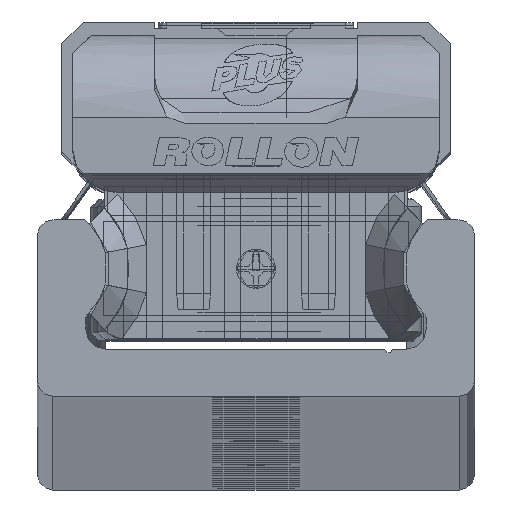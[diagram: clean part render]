
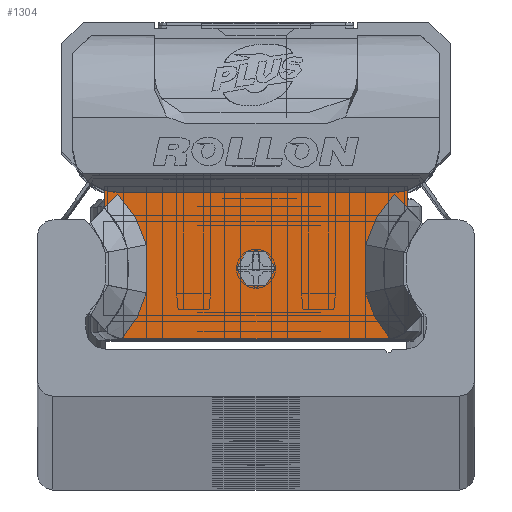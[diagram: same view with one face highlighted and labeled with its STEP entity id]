
A CAD part, top view. The second image highlights one B-rep face of the part: STEP entity #1304.
In plain terms, the highlighted planar face has unit normal (0, 0, 1) as drawn and (0, 0, -1) by its records, which use the part's own axes.
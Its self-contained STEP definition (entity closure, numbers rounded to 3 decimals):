
#1304 = ADVANCED_FACE( '', ( #3102, #3103 ), #3104, .F. );
#3102 = FACE_BOUND( '', #5650, .T. );
#3103 = FACE_OUTER_BOUND( '', #5651, .T. );
#3104 = PLANE( '', #5652 );
#5650 = EDGE_LOOP( '', ( #9336 ) );
#5651 = EDGE_LOOP( '', ( #9337, #9338, #9339, #9340, #9341, #9342, #9343, #9344, #9345, #9346, #9347, #9348, #9349, #9350 ) );
#5652 = AXIS2_PLACEMENT_3D( '', #9351, #9352, #9353 );
#9336 = ORIENTED_EDGE( '', *, *, #14584, .T. );
#9337 = ORIENTED_EDGE( '', *, *, #14585, .F. );
#9338 = ORIENTED_EDGE( '', *, *, #14586, .T. );
#9339 = ORIENTED_EDGE( '', *, *, #14587, .T. );
#9340 = ORIENTED_EDGE( '', *, *, #14588, .T. );
#9341 = ORIENTED_EDGE( '', *, *, #14589, .T. );
#9342 = ORIENTED_EDGE( '', *, *, #14590, .T. );
#9343 = ORIENTED_EDGE( '', *, *, #13703, .T. );
#9344 = ORIENTED_EDGE( '', *, *, #14591, .T. );
#9345 = ORIENTED_EDGE( '', *, *, #14592, .T. );
#9346 = ORIENTED_EDGE( '', *, *, #14593, .T. );
#9347 = ORIENTED_EDGE( '', *, *, #14433, .T. );
#9348 = ORIENTED_EDGE( '', *, *, #14594, .T. );
#9349 = ORIENTED_EDGE( '', *, *, #14595, .T. );
#9350 = ORIENTED_EDGE( '', *, *, #14596, .T. );
#9351 = CARTESIAN_POINT( '', ( 9.7, 4.89, -10.6 ) );
#9352 = DIRECTION( '', ( 0., 0., 1. ) );
#9353 = DIRECTION( '', ( 1., 0., 0. ) );
#13703 = EDGE_CURVE( '', #16223, #16224, #16225, .T. );
#14433 = EDGE_CURVE( '', #16273, #17459, #17461, .T. );
#14584 = EDGE_CURVE( '', #17684, #17684, #17685, .T. );
#14585 = EDGE_CURVE( '', #17686, #15868, #17687, .T. );
#14586 = EDGE_CURVE( '', #17686, #17688, #17689, .T. );
#14587 = EDGE_CURVE( '', #17688, #17690, #17691, .T. );
#14588 = EDGE_CURVE( '', #17690, #17692, #17693, .T. );
#14589 = EDGE_CURVE( '', #17692, #17694, #17695, .T. );
#14590 = EDGE_CURVE( '', #17694, #16223, #17696, .T. );
#14591 = EDGE_CURVE( '', #16224, #17697, #17698, .T. );
#14592 = EDGE_CURVE( '', #17697, #16687, #17699, .T. );
#14593 = EDGE_CURVE( '', #16687, #16273, #17700, .T. );
#14594 = EDGE_CURVE( '', #17459, #17701, #17702, .T. );
#14595 = EDGE_CURVE( '', #17701, #17703, #17704, .T. );
#14596 = EDGE_CURVE( '', #17703, #15868, #17705, .T. );
#15868 = VERTEX_POINT( '', #19374 );
#16223 = VERTEX_POINT( '', #19866 );
#16224 = VERTEX_POINT( '', #19867 );
#16225 = B_SPLINE_CURVE_WITH_KNOTS( '', 2, ( #19868, #19869, #19870, #19871, #19872 ), .UNSPECIFIED., .F., .F., ( 3, 2, 3 ), ( 0., 0.5, 1. ), .UNSPECIFIED. );
#16273 = VERTEX_POINT( '', #19932 );
#16687 = VERTEX_POINT( '', #20573 );
#17459 = VERTEX_POINT( '', #21729 );
#17461 = B_SPLINE_CURVE_WITH_KNOTS( '', 2, ( #21732, #21733, #21734 ), .UNSPECIFIED., .F., .F., ( 3, 3 ), ( 0.1, 1. ), .UNSPECIFIED. );
#17684 = VERTEX_POINT( '', #22009 );
#17685 = CIRCLE( '', #22010, 1.25 );
#17686 = VERTEX_POINT( '', #22011 );
#17687 = LINE( '', #22012, #22013 );
#17688 = VERTEX_POINT( '', #22014 );
#17689 = CIRCLE( '', #22015, 2.8 );
#17690 = VERTEX_POINT( '', #22016 );
#17691 = LINE( '', #22017, #22018 );
#17692 = VERTEX_POINT( '', #22019 );
#17693 = CIRCLE( '', #22020, 2.8 );
#17694 = VERTEX_POINT( '', #22021 );
#17695 = LINE( '', #22022, #22023 );
#17696 = LINE( '', #22024, #22025 );
#17697 = VERTEX_POINT( '', #22026 );
#17698 = B_SPLINE_CURVE_WITH_KNOTS( '', 2, ( #22027, #22028, #22029 ), .UNSPECIFIED., .F., .F., ( 3, 3 ), ( 0., 1. ), .UNSPECIFIED. );
#17699 = B_SPLINE_CURVE_WITH_KNOTS( '', 2, ( #22030, #22031, #22032 ), .UNSPECIFIED., .F., .F., ( 3, 3 ), ( 0., 1. ), .UNSPECIFIED. );
#17700 = LINE( '', #22033, #22034 );
#17701 = VERTEX_POINT( '', #22035 );
#17702 = B_SPLINE_CURVE_WITH_KNOTS( '', 2, ( #22036, #22037, #22038 ), .UNSPECIFIED., .F., .F., ( 3, 3 ), ( 0., 1. ), .UNSPECIFIED. );
#17703 = VERTEX_POINT( '', #22039 );
#17704 = B_SPLINE_CURVE_WITH_KNOTS( '', 2, ( #22040, #22041, #22042 ), .UNSPECIFIED., .F., .F., ( 3, 3 ), ( 0., 1. ), .UNSPECIFIED. );
#17705 = LINE( '', #22043, #22044 );
#19374 = CARTESIAN_POINT( '', ( -9.7, 3.494, -10.6 ) );
#19866 = CARTESIAN_POINT( '', ( 8.853, 4.366, -10.6 ) );
#19867 = CARTESIAN_POINT( '', ( 7.031, 1.144, -10.6 ) );
#19868 = CARTESIAN_POINT( '', ( 8.853, 4.366, -10.6 ) );
#19869 = CARTESIAN_POINT( '', ( 8.182, 3.708, -10.6 ) );
#19870 = CARTESIAN_POINT( '', ( 7.715, 2.883, -10.6 ) );
#19871 = CARTESIAN_POINT( '', ( 7.249, 2.058, -10.6 ) );
#19872 = CARTESIAN_POINT( '', ( 7.031, 1.144, -10.6 ) );
#19932 = CARTESIAN_POINT( '', ( -8.59, -4.893, -10.6 ) );
#20573 = CARTESIAN_POINT( '', ( 8.59, -4.893, -10.6 ) );
#21729 = CARTESIAN_POINT( '', ( -7.031, -1.944, -10.6 ) );
#21732 = CARTESIAN_POINT( '', ( -8.587, -4.89, -10.6 ) );
#21733 = CARTESIAN_POINT( '', ( -7.432, -3.63, -10.6 ) );
#21734 = CARTESIAN_POINT( '', ( -7.031, -1.944, -10.6 ) );
#22009 = CARTESIAN_POINT( '', ( 1.25, -0.39, -10.6 ) );
#22010 = AXIS2_PLACEMENT_3D( '', #25789, #25790, #25791 );
#22011 = CARTESIAN_POINT( '', ( -9.7, 4.612, -10.6 ) );
#22012 = CARTESIAN_POINT( '', ( -9.7, 4.89, -10.6 ) );
#22013 = VECTOR( '', #25792, 1000. );
#22014 = CARTESIAN_POINT( '', ( -8.95, 4.51, -10.6 ) );
#22015 = AXIS2_PLACEMENT_3D( '', #25793, #25794, #25795 );
#22016 = CARTESIAN_POINT( '', ( 8.95, 4.51, -10.6 ) );
#22017 = CARTESIAN_POINT( '', ( 9.7, 4.51, -10.6 ) );
#22018 = VECTOR( '', #25796, 1000. );
#22019 = CARTESIAN_POINT( '', ( 9.7, 4.612, -10.6 ) );
#22020 = AXIS2_PLACEMENT_3D( '', #25797, #25798, #25799 );
#22021 = CARTESIAN_POINT( '', ( 9.7, 3.497, -10.6 ) );
#22022 = CARTESIAN_POINT( '', ( 9.7, 4.89, -10.6 ) );
#22023 = VECTOR( '', #25800, 1000. );
#22024 = CARTESIAN_POINT( '', ( 9.7, 3.501, -10.6 ) );
#22025 = VECTOR( '', #25801, 1000. );
#22026 = CARTESIAN_POINT( '', ( 7.031, -1.944, -10.6 ) );
#22027 = CARTESIAN_POINT( '', ( 7.031, 1.144, -10.6 ) );
#22028 = CARTESIAN_POINT( '', ( 6.929, -0.4, -10.6 ) );
#22029 = CARTESIAN_POINT( '', ( 7.031, -1.944, -10.6 ) );
#22030 = CARTESIAN_POINT( '', ( 7.031, -1.944, -10.6 ) );
#22031 = CARTESIAN_POINT( '', ( 7.429, -3.615, -10.6 ) );
#22032 = CARTESIAN_POINT( '', ( 8.588, -4.89, -10.6 ) );
#22033 = CARTESIAN_POINT( '', ( 9.7, -4.89, -10.6 ) );
#22034 = VECTOR( '', #25802, 1000. );
#22035 = CARTESIAN_POINT( '', ( -7.031, 1.144, -10.6 ) );
#22036 = CARTESIAN_POINT( '', ( -7.031, -1.944, -10.6 ) );
#22037 = CARTESIAN_POINT( '', ( -6.929, -0.4, -10.6 ) );
#22038 = CARTESIAN_POINT( '', ( -7.031, 1.144, -10.6 ) );
#22039 = CARTESIAN_POINT( '', ( -8.853, 4.366, -10.6 ) );
#22040 = CARTESIAN_POINT( '', ( -7.031, 1.144, -10.6 ) );
#22041 = CARTESIAN_POINT( '', ( -7.477, 3.018, -10.6 ) );
#22042 = CARTESIAN_POINT( '', ( -8.853, 4.366, -10.6 ) );
#22043 = CARTESIAN_POINT( '', ( -8.853, 4.366, -10.6 ) );
#22044 = VECTOR( '', #25803, 1000. );
#25789 = CARTESIAN_POINT( '', ( 0., -0.39, -10.6 ) );
#25790 = DIRECTION( '', ( 0., 0., 1. ) );
#25791 = DIRECTION( '', ( 1., 0., 0. ) );
#25792 = DIRECTION( '', ( 0., -1., 0. ) );
#25793 = CARTESIAN_POINT( '', ( -8.95, 7.31, -10.6 ) );
#25794 = DIRECTION( '', ( 0., 0., 1. ) );
#25795 = DIRECTION( '', ( 1., 0., 0. ) );
#25796 = DIRECTION( '', ( 1., 0., 0. ) );
#25797 = CARTESIAN_POINT( '', ( 8.95, 7.31, -10.6 ) );
#25798 = DIRECTION( '', ( 0., 0., 1. ) );
#25799 = DIRECTION( '', ( 1., 0., 0. ) );
#25800 = DIRECTION( '', ( 0., -1., 0. ) );
#25801 = DIRECTION( '', ( -0.7, 0.714, 0. ) );
#25802 = DIRECTION( '', ( -1., 0., 0. ) );
#25803 = DIRECTION( '', ( -0.7, -0.714, 0. ) );
